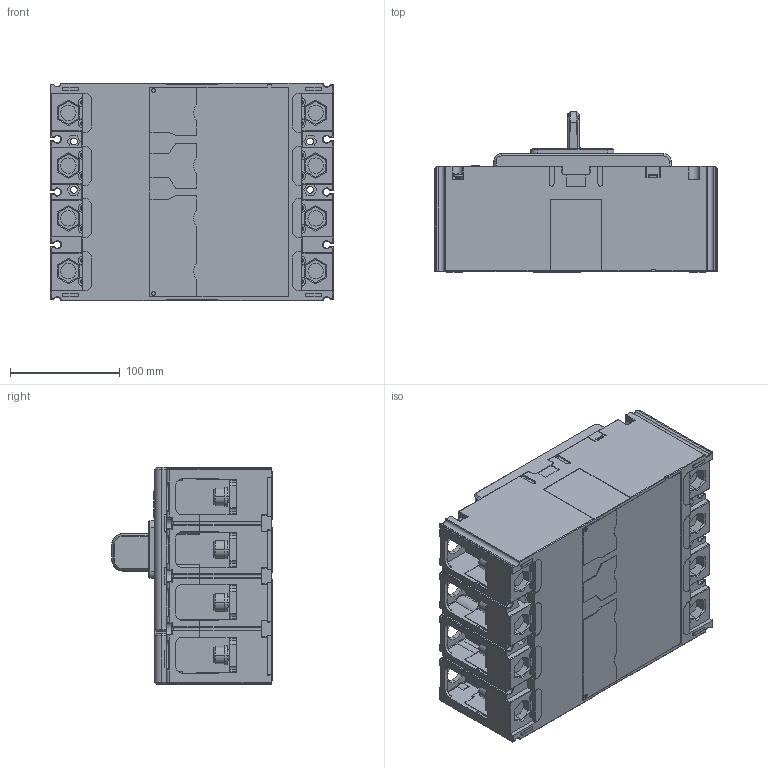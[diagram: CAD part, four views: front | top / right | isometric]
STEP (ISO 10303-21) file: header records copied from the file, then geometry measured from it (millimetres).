
FILE_DESCRIPTION((''),'2;1');
FILE_NAME('CDM6EI-630_4P_ASM','2019-07-18T',('gang.sun'),(''),'PRO/ENGINEER BY PARAMETRIC TECHNOLOGY CORPORATION, 2015440','PRO/ENGINEER BY PARAMETRIC TECHNOLOGY CORPORATION, 2015440','');
FILE_SCHEMA(('CONFIG_CONTROL_DESIGN'));
Products named in the file (15): MSBR-14; MSBR-13; MSBR-12; PRT0001; PRT0002; PRT0003; PRT0004; PRT0005; PRT0006; PRT0007; PRT0008; PRT0009; PRT0010; PRT0011; CDM6EI-630_4P_ASM
Assembly tree (14 placements, depth 2):
  CDM6EI-630_4P_ASM
    MSBR-14
    MSBR-13
    MSBR-12
    PRT0001
    PRT0002
    PRT0003
    PRT0004
    PRT0005
    PRT0006
    PRT0007
    PRT0008
    PRT0009
    PRT0010
    PRT0011
Bounding box: 257 x 145.9 x 198 mm (x, y, z)
Volume: 4613257.8 mm3; surface area: 368886.6 mm2
Topology: 14 solids, 20 shells, 3713 faces, 10051 edges, 6417 vertices
Faces by surface type: plane 2127, cylinder 978, cone 179, torus 169, extrusion 158, sphere 66, bspline 36
Entity records: 122038 total; most frequent: CARTESIAN_POINT 27958, ORIENTED_EDGE 19948, DIRECTION 19179, EDGE_CURVE 9974, VECTOR 6623, LINE 6465, VERTEX_POINT 6417, AXIS2_PLACEMENT_3D 6278
